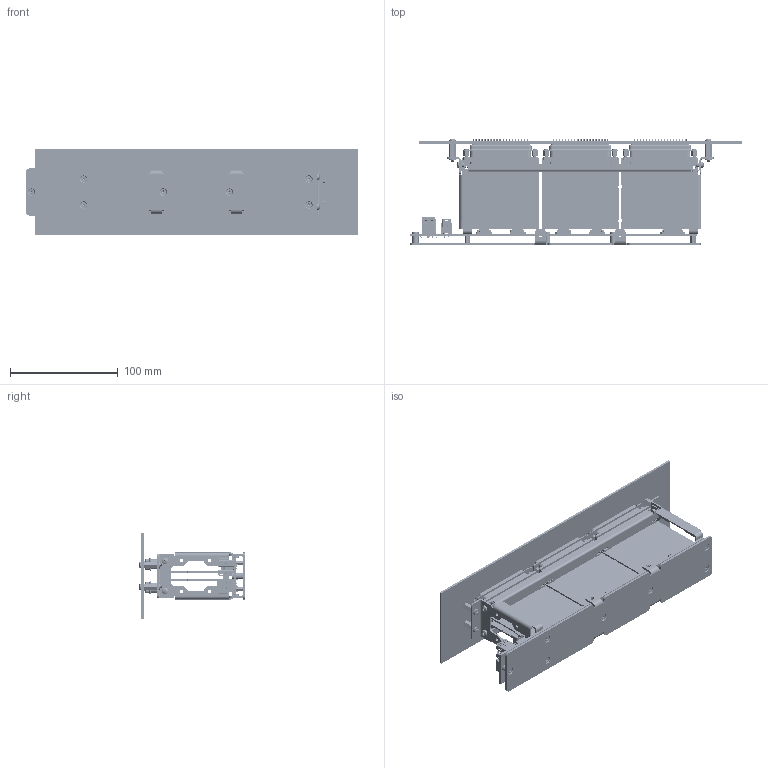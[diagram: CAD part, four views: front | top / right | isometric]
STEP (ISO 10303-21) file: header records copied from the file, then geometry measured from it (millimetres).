
FILE_DESCRIPTION((''),'2;1');
FILE_NAME('ASSY_TS_IN_FIXTURE_ASM','2022-06-24T14:33:51',('kleong'),(''),'CREO PARAMETRIC BY PTC INC, 2021063','CREO PARAMETRIC BY PTC INC, 2021063','');
FILE_SCHEMA(('AUTOMOTIVE_DESIGN { 1 0 10303 214 1 1 1 1 }'));
Products named in the file (53): PCB_TS_BACKPLANE_IN_FIXTURE; FS5_30_04_0_TH__SOCKET; C_304__30; FS5_30_04_0_L_DV_TH_K__TR_ASM; FS5_15_04_0_TH__SOCKET; C_304__15; FS5_15_04_0_L_DV_TH_K__TR_AF0_ASM; FS5_15_04_0_L_DV_TH_K__TR_AF1_ASM; FS5_15_04_0_L_DV_TH_K__TR_AF2_ASM; FS5_15_04_0_L_DV_TH_K__TR_AF3_ASM; FS5_15_04_0_L_DV_TH_K__TR_AF4_ASM; 1722991204; CONN_USB_A_VT_SAMTEC_RETENTION; CONN_USB_VERTICAL_AMP_5788336-1; CCA_TS_BACKPLANE_IN_FIXTURE_ASM; PCB_TS_GPIO_MODULE; KYCON_K22X-C37P-N; FT5_30_01___TEMINAL; T_1M84_30__01; FT5_30_01_L_RA_K__TR_ASM; SO_187HEX_MF_440X01875_SS_0; CCA_TS_GPIO_MODULE_ASM; PCB_TS_IO_MODULE; FT5_15_01___TEMINAL; T_1M84_15__01; FT5_15_01_L_RA_K__TR_AF0_ASM; CCA_TS_IO_MODULE_AF0_ASM; FT5_15_01_L_RA_K__TR_AF1_ASM; CCA_TS_IO_MODULE_AF1_ASM; FT5_15_01_L_RA_K__TR_AF2_ASM; CCA_TS_IO_MODULE_AF2_ASM; FT5_15_01_L_RA_K__TR_AF3_ASM; CCA_TS_IO_MODULE_AF3_ASM; FT5_15_01_L_RA_K__TR_AF4_ASM; CCA_TS_IO_MODULE_AF4_ASM; TS_SIDE_PANEL_IN_FIXTURE; S-M3-2_ZI; ASSY_TS_SIDE_PANEL_IN_FIXTURE_ASM; TS_MODULE_PANEL_IN_FIXTURE; FEOX-M3-PENNENGINEERING-3D-06-1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
Assembly tree (133 placements, depth 4):
  ASSY_TS_IN_FIXTURE_ASM
    CCA_TS_BACKPLANE_IN_FIXTURE_ASM
      PCB_TS_BACKPLANE_IN_FIXTURE
      FS5_30_04_0_L_DV_TH_K__TR_ASM
        FS5_30_04_0_TH__SOCKET
        C_304__30
      FS5_15_04_0_L_DV_TH_K__TR_AF0_ASM
        FS5_15_04_0_TH__SOCKET
        C_304__15
      FS5_15_04_0_L_DV_TH_K__TR_AF1_ASM
        FS5_15_04_0_TH__SOCKET
        C_304__15
      FS5_15_04_0_L_DV_TH_K__TR_AF2_ASM
        FS5_15_04_0_TH__SOCKET
        C_304__15
      FS5_15_04_0_L_DV_TH_K__TR_AF3_ASM
        FS5_15_04_0_TH__SOCKET
        C_304__15
      FS5_15_04_0_L_DV_TH_K__TR_AF4_ASM
        FS5_15_04_0_TH__SOCKET
        C_304__15
      1722991204  x2
      CONN_USB_A_VT_SAMTEC_RETENTION  x2
      CONN_USB_VERTICAL_AMP_5788336-1
    CCA_TS_GPIO_MODULE_ASM
      PCB_TS_GPIO_MODULE
      KYCON_K22X-C37P-N
      FT5_30_01_L_RA_K__TR_ASM
        FT5_30_01___TEMINAL
        T_1M84_30__01
      SO_187HEX_MF_440X01875_SS_0  x2
    CCA_TS_IO_MODULE_AF0_ASM
      PCB_TS_IO_MODULE
      KYCON_K22X-C37P-N
      SO_187HEX_MF_440X01875_SS_0  x2
      FT5_15_01_L_RA_K__TR_AF0_ASM
        FT5_15_01___TEMINAL
        T_1M84_15__01
    CCA_TS_IO_MODULE_AF1_ASM
      PCB_TS_IO_MODULE
      KYCON_K22X-C37P-N
      SO_187HEX_MF_440X01875_SS_0  x2
      FT5_15_01_L_RA_K__TR_AF1_ASM
        FT5_15_01___TEMINAL
        T_1M84_15__01
    CCA_TS_IO_MODULE_AF2_ASM
      PCB_TS_IO_MODULE
      KYCON_K22X-C37P-N
      SO_187HEX_MF_440X01875_SS_0  x2
      FT5_15_01_L_RA_K__TR_AF2_ASM
        FT5_15_01___TEMINAL
        T_1M84_15__01
    CCA_TS_IO_MODULE_AF3_ASM
      PCB_TS_IO_MODULE
      KYCON_K22X-C37P-N
      SO_187HEX_MF_440X01875_SS_0  x2
      FT5_15_01_L_RA_K__TR_AF3_ASM
        FT5_15_01___TEMINAL
        T_1M84_15__01
    CCA_TS_IO_MODULE_AF4_ASM
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Bounding box: 308 x 98.42 x 80 mm (x, y, z)
Volume: 372465.3 mm3; surface area: 454848.7 mm2
Topology: 115 solids, 136 shells, 34558 faces, 96198 edges, 61639 vertices
Faces by surface type: plane 24576, cylinder 7429, cone 1147, sphere 642, torus 380, bspline 216, extrusion 168
Entity records: 791583 total; most frequent: CARTESIAN_POINT 195789, ORIENTED_EDGE 98536, DIRECTION 90203, EDGE_CURVE 49270, VECTOR 40341, LINE 40245, VERTEX_POINT 32001, PRESENTATION_STYLE_ASSIGNMENT 30311
